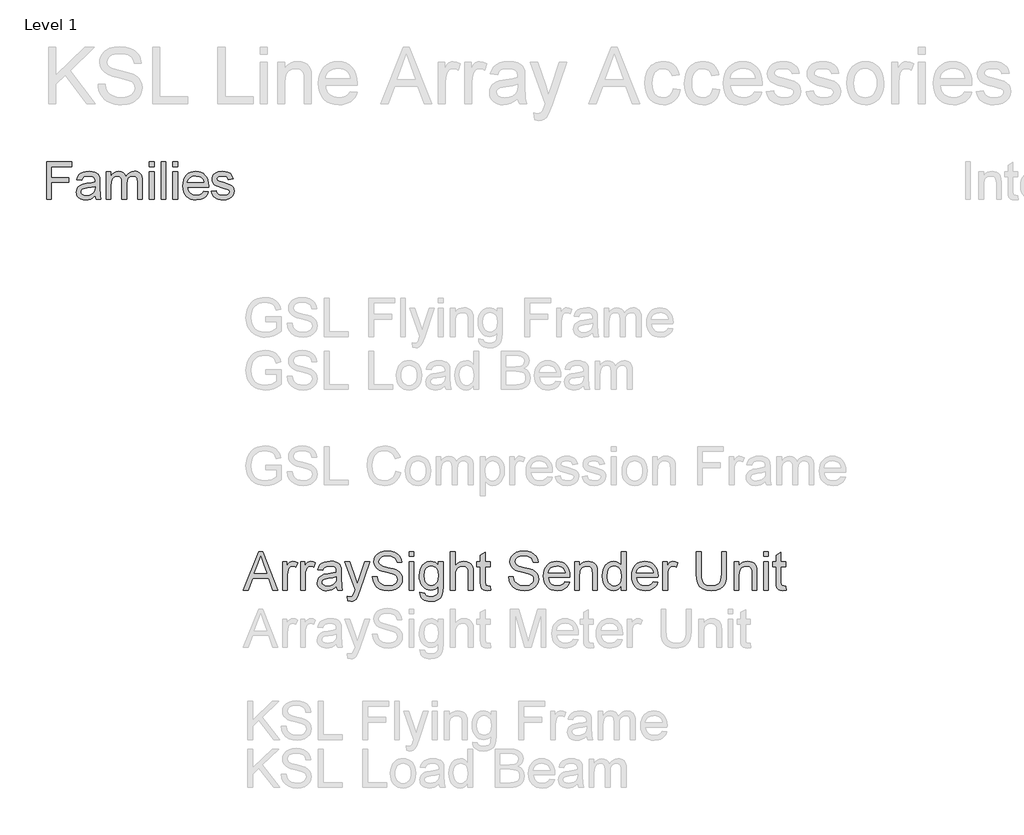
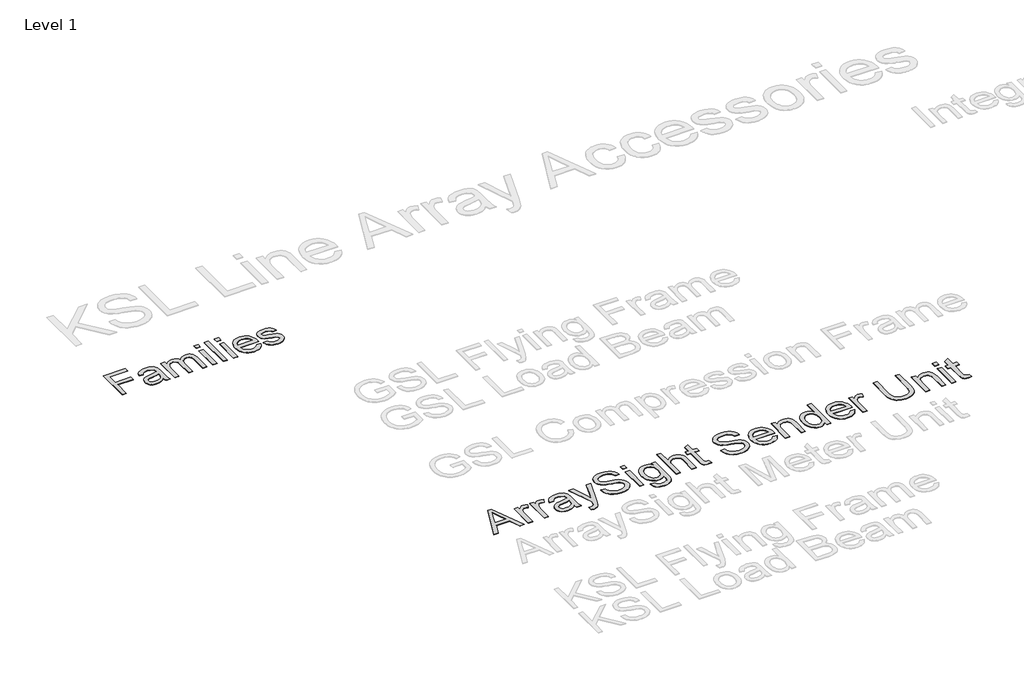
# One storey, part 12 of 52: 2 proxies.
"""IFC4 building model written with IfcOpenShell, lengths in millimetres."""

from ifc_helpers import new_model, si_unit, origin, origin_with_axes, place, context, project, spatial, polyline, outline, extrude, element, save

model = new_model("IFC4")

# Units and contexts
model_context = context("Model", 3, world=origin())
ifc_project = project(units=[si_unit("LENGTHUNIT", "METRE", prefix="MILLI")], contexts=[model_context])

# Site, building, storey
site = spatial("IfcSite", under=ifc_project)
building = spatial("IfcBuilding", under=site)
storey = spatial("IfcBuildingStorey", under=building, Name="Level 1", Elevation=0.0)

# Proxies
placement = place(None, origin())
element("IfcBuildingElementProxy", 1, Name="400mm Arial", ObjectType="400mm Arial", at=placement, inside=storey, context=model_context, shape_type="SweptSolid", body=[
    extrude(outline(polyline([(-21056.720891, -49567.5695164), (-21056.720891, -49175.8119407), (-20793.5087698, -49175.8119407), (-20793.5087698, -49224.7816376), (-21007.7511941, -49224.7816376), (-21007.7511941, -49341.0846679), (-20824.1148304, -49341.0846679), (-20824.1148304, -49390.0543649), (-21007.7511941, -49390.0543649), (-21007.7511941, -49567.5695164), (-21056.720891, -49567.5695164)])), origin_with_axes(), (0.0, 0.0, 1.0), 5.0),
    extrude(outline(polyline([(-20548.660285, -49530.8422437), (-20572.0571836, -49550.90356), (-20596.1475009, -49564.0306907), (-20621.4811893, -49571.2757191), (-20648.6082016, -49573.6907285), (-20670.4120309, -49572.2381362), (-20689.5318522, -49567.8803592), (-20705.9676654, -49560.6173976), (-20719.7194706, -49550.4492513), (-20730.5780466, -49538.0215169), (-20738.3341723, -49523.979791), (-20742.9878477, -49508.3240737), (-20744.5390729, -49491.0543649), (-20742.1957963, -49470.7539388), (-20735.1659668, -49452.3185695), (-20724.3223352, -49436.5373195), (-20710.5376524, -49424.1992513), (-20676.2493001, -49408.1310695), (-20633.879035, -49400.7664861), (-20583.8094327, -49393.019327), (-20548.9472168, -49383.9331528), (-20548.660285, -49373.0297437), (-20552.0317338, -49351.1751035), (-20562.1460804, -49336.8763346), (-20584.7658721, -49326.2598573), (-20616.2805501, -49322.7210316), (-20645.4519516, -49325.0762636), (-20665.8241107, -49332.1419596), (-20679.7163929, -49345.2093128), (-20689.4481638, -49365.5695164), (-20738.4178607, -49359.4483043), (-20729.9175056, -49332.6680013), (-20717.2327282, -49311.6263346), (-20699.1799346, -49295.5342418), (-20674.5755312, -49283.6026604), (-20644.4835568, -49276.214166), (-20609.9680501, -49273.7513346), (-20576.8632916, -49275.9272342), (-20550.6209857, -49282.4549331), (-20530.8346458, -49292.2703924), (-20517.097785, -49304.3095732), (-20507.9876997, -49319.1941613), (-20502.0816865, -49337.5458422), (-20499.690588, -49380.394327), (-20499.690588, -49441.3195164), (-20497.2038456, -49526.3948005), (-20487.4481638, -49567.5695164), (-20536.4178607, -49567.5695164), (-20544.2606638, -49550.5448952), (-20548.660285, -49530.8422437)]), holes=[polyline([(-20548.660285, -49432.9028498), (-20581.5618001, -49441.0564956), (-20627.6621789, -49447.9189482), (-20669.7933342, -49455.8573952), (-20680.7565208, -49461.2851888), (-20688.8743001, -49468.769327), (-20693.8956069, -49477.7359464), (-20695.5693759, -49487.6111831), (-20691.9229507, -49502.1729729), (-20680.9836751, -49514.1045543), (-20662.990659, -49522.0669123), (-20638.1830122, -49524.7210316), (-20611.8809289, -49521.7919359), (-20588.6394516, -49513.004649), (-20569.7975956, -49500.0568507), (-20556.6943759, -49484.646221), (-20550.8840066, -49468.769327), (-20548.9472168, -49446.771221), (-20548.660285, -49432.9028498)])]), origin_with_axes(), (0.0, 0.0, 1.0), 5.0),
    extrude(outline(polyline([(-20432.3572547, -49567.5695164), (-20432.3572547, -49279.8725467), (-20383.3875577, -49279.8725467), (-20383.3875577, -49327.2162967), (-20368.658391, -49305.469256), (-20349.720891, -49288.4326793), (-20327.2206543, -49277.4216708), (-20301.8032774, -49273.7513346), (-20274.5686657, -49277.4934037), (-20252.7379365, -49288.7196111), (-20236.4306448, -49306.6887162), (-20225.7663456, -49330.6594785), (-20207.9167954, -49305.7621656), (-20187.5565918, -49287.9783706), (-20164.6857348, -49277.3080936), (-20139.3042244, -49273.7513346), (-20119.7002057, -49275.2308268), (-20102.4932632, -49279.6693034), (-20087.683397, -49287.0667643), (-20075.2706069, -49297.4232096), (-20065.4581365, -49310.8581942), (-20058.4492291, -49327.4912731), (-20054.2438846, -49347.3224461), (-20052.8421032, -49370.3517134), (-20052.8421032, -49567.5695164), (-20101.8118001, -49567.5695164), (-20101.8118001, -49391.3933801), (-20106.3548872, -49350.505596), (-20112.7391202, -49339.2315666), (-20122.8056448, -49330.3725467), (-20135.7534431, -49324.6339104), (-20150.7814971, -49322.7210316), (-20177.3107348, -49327.6227835), (-20198.9382206, -49342.3280392), (-20207.3279874, -49353.6080463), (-20213.320678, -49367.84106), (-20218.1148304, -49405.1661073), (-20218.1148304, -49567.5695164), (-20267.0845274, -49567.5695164), (-20267.0845274, -49385.9416755), (-20269.9179791, -49358.2527551), (-20278.4183342, -49338.5022816), (-20293.3746552, -49326.6663441), (-20315.5760047, -49322.7210316), (-20334.4417717, -49325.3512399), (-20351.8250577, -49333.2418649), (-20366.1716486, -49346.2016187), (-20375.9273304, -49364.0392134), (-20381.5225009, -49388.7870827), (-20383.3875577, -49422.4776604), (-20383.3875577, -49567.5695164), (-20432.3572547, -49567.5695164)])), origin_with_axes(), (0.0, 0.0, 1.0), 5.0),
    extrude(outline(polyline([(-19979.3875577, -49224.7816376), (-19979.3875577, -49175.8119407), (-19930.4178607, -49175.8119407), (-19930.4178607, -49224.7816376), (-19979.3875577, -49224.7816376)])), origin_with_axes(), (0.0, 0.0, 1.0), 5.0),
    extrude(outline(polyline([(-19979.3875577, -49567.5695164), (-19979.3875577, -49279.8725467), (-19930.4178607, -49279.8725467), (-19930.4178607, -49567.5695164), (-19979.3875577, -49567.5695164)])), origin_with_axes(), (0.0, 0.0, 1.0), 5.0),
    extrude(outline(polyline([(-19856.9633153, -49567.5695164), (-19856.9633153, -49175.8119407), (-19807.9936183, -49175.8119407), (-19807.9936183, -49567.5695164), (-19856.9633153, -49567.5695164)])), origin_with_axes(), (0.0, 0.0, 1.0), 5.0),
    extrude(outline(polyline([(-19734.5390729, -49224.7816376), (-19734.5390729, -49175.8119407), (-19685.5693759, -49175.8119407), (-19685.5693759, -49224.7816376), (-19734.5390729, -49224.7816376)])), origin_with_axes(), (0.0, 0.0, 1.0), 5.0),
    extrude(outline(polyline([(-19734.5390729, -49567.5695164), (-19734.5390729, -49279.8725467), (-19685.5693759, -49279.8725467), (-19685.5693759, -49567.5695164), (-19734.5390729, -49567.5695164)])), origin_with_axes(), (0.0, 0.0, 1.0), 5.0),
    extrude(outline(polyline([(-19410.6886941, -49481.8725467), (-19362.6754365, -49487.9937589), (-19370.0370309, -49507.2241684), (-19379.975034, -49524.1710789), (-19392.4894457, -49538.8344904), (-19407.580266, -49551.2144028), (-19425.0920736, -49561.0477953), (-19444.8694469, -49568.0716471), (-19491.220891, -49573.6907285), (-19521.605775, -49571.2667525), (-19548.6789876, -49563.9948242), (-19572.4405288, -49551.8749437), (-19592.8903986, -49534.9071111), (-19609.3351784, -49513.5635683), (-19621.0814497, -49488.3165571), (-19628.1292125, -49459.1660777), (-19630.4784668, -49426.1121301), (-19628.1053015, -49391.937355), (-19620.9858058, -49361.8154918), (-19609.1199796, -49335.7465406), (-19592.5078229, -49313.7305013), (-19572.1117528, -49296.2396159), (-19548.8941865, -49283.7461263), (-19522.855124, -49276.2500325), (-19493.9945653, -49273.7513346), (-19466.0635461, -49276.2440548), (-19440.8045795, -49283.7222153), (-19418.2176654, -49296.1858161), (-19398.3028039, -49313.6348573), (-19382.0463231, -49335.6030747), (-19370.4345511, -49361.6242039), (-19363.4674879, -49391.6982451), (-19361.1451335, -49425.8251982), (-19361.4320653, -49439.0240619), (-19581.5087698, -49439.0240619), (-19578.6723292, -49458.5653142), (-19573.0323257, -49475.6796017), (-19564.5887592, -49490.3669241), (-19553.3416297, -49502.6272816), (-19524.9234242, -49519.1975941), (-19490.2644516, -49524.7210316), (-19464.2014782, -49522.1625562), (-19442.2511941, -49514.4871301), (-19424.4135994, -49501.2165335), (-19410.6886941, -49481.8725467)]), holes=[polyline([(-19581.5087698, -49390.0543649), (-19410.1148304, -49390.0543649), (-19416.7381732, -49364.1826793), (-19429.721838, -49345.675577), (-19443.076123, -49335.6329634), (-19458.2715539, -49328.4596679), (-19494.1858532, -49322.7210316), (-19527.1949677, -49327.2999852), (-19554.4893569, -49341.036846), (-19573.4627234, -49362.4491329), (-19581.5087698, -49390.0543649)])]), origin_with_axes(), (0.0, 0.0, 1.0), 5.0),
    extrude(outline(polyline([(-19330.5390729, -49481.8725467), (-19281.5693759, -49475.7513346), (-19273.8461278, -49496.6973573), (-19258.9017622, -49512.0960316), (-19236.6406354, -49521.5647816), (-19206.9671032, -49524.7210316), (-19177.6522357, -49521.8278024), (-19157.0409668, -49513.1481149), (-19144.8463645, -49500.5709369), (-19140.7814971, -49485.9852361), (-19144.8702755, -49473.503702), (-19157.1366107, -49463.9871301), (-19207.5409668, -49450.0231149), (-19281.2824441, -49426.0643081), (-19299.9449677, -49414.0251272), (-19313.4666297, -49398.0884558), (-19321.680053, -49379.2705107), (-19324.4178607, -49358.5875089), (-19322.2180501, -49339.6141424), (-19315.6186183, -49322.099346), (-19305.2173399, -49306.7365382), (-19291.6119895, -49294.2191376), (-19260.4798872, -49279.7290808), (-19218.3487319, -49273.7513346), (-19186.4753891, -49276.1543886), (-19158.7625577, -49283.3635505), (-19136.4775198, -49294.6734464), (-19120.8875577, -49309.378702), (-19110.5580122, -49328.5672674), (-19104.0542244, -49353.3270922), (-19153.0239213, -49359.4483043), (-19159.2049109, -49344.0376746), (-19171.4353797, -49332.4288914), (-19189.8348825, -49325.1479965), (-19214.5229744, -49322.7210316), (-19242.6422925, -49325.0403971), (-19261.3885047, -49331.9984937), (-19271.933249, -49342.0411073), (-19275.4481638, -49353.614024), (-19269.6138835, -49367.864971), (-19251.345891, -49378.6727361), (-19209.1669138, -49389.0979255), (-19137.2904933, -49412.1481149), (-19118.3051713, -49423.1710789), (-19103.9107585, -49438.2589104), (-19094.8365397, -49457.4594312), (-19091.8118001, -49480.8204634), (-19095.3625814, -49504.9705581), (-19106.0149251, -49527.6859937), (-19123.3623446, -49547.1854018), (-19146.9983532, -49561.6874142), (-19175.5480691, -49570.6899), (-19207.6366107, -49573.6907285), (-19233.9924938, -49572.244114), (-19257.0127944, -49567.9042702), (-19276.6975127, -49560.6711973), (-19293.0466486, -49550.5448952), (-19306.4009336, -49537.5731859), (-19317.1010994, -49521.8038914), (-19325.1471458, -49503.2370117), (-19330.5390729, -49481.8725467)])), origin_with_axes(), (0.0, 0.0, 1.0), 5.0),
])
element("IfcBuildingElementProxy", 2, Name="400mm Arial", ObjectType="400mm Arial", at=placement, inside=storey, context=model_context, shape_type="SweptSolid", body=[
    extrude(outline(polyline([(-18997.8660955, -53656.6859046), (-18837.4695456, -53254.860664), (-18794.6971323, -53254.860664), (-18634.3005824, -53656.6859046), (-18687.3736916, -53656.6859046), (-18733.3834665, -53531.1155169), (-18898.8813134, -53531.1155169), (-18944.7929864, -53656.6859046), (-18997.8660955, -53656.6859046)]), holes=[polyline([(-18880.4381627, -53480.8873618), (-18751.7285153, -53480.8873618), (-18787.9281036, -53382.0987834), (-18816.083339, -53305.088819), (-18841.0993147, -53373.4658192), (-18880.4381627, -53480.8873618)])]), origin_with_axes(), (0.0, 0.0, 1.0), 5.0),
    extrude(outline(polyline([(-18586.9173815, -53656.6859046), (-18586.9173815, -53361.5954935), (-18542.9677458, -53361.5954935), (-18542.9677458, -53405.2508236), (-18526.731887, -53379.9405423), (-18511.7713526, -53365.0290588), (-18496.7617672, -53357.7449953), (-18480.3787557, -53355.3169741), (-18455.36278, -53359.1919978), (-18429.9543969, -53370.8170688), (-18446.7298158, -53415.845825), (-18464.3881516, -53408.1203031), (-18482.0464874, -53405.5451292), (-18497.04381, -53408.0222013), (-18510.4469774, -53415.4534176), (-18521.2749708, -53427.2746924), (-18528.5467716, -53442.9219399), (-18534.6536127, -53470.9790734), (-18536.6892264, -53501.5868554), (-18536.6892264, -53656.6859046), (-18586.9173815, -53656.6859046)])), origin_with_axes(), (0.0, 0.0, 1.0), 5.0),
    extrude(outline(polyline([(-18398.5617999, -53656.6859046), (-18398.5617999, -53361.5954935), (-18354.6121642, -53361.5954935), (-18354.6121642, -53405.2508236), (-18338.3763055, -53379.9405423), (-18323.415771, -53365.0290588), (-18308.4061856, -53357.7449953), (-18292.0231741, -53355.3169741), (-18267.0071985, -53359.1919978), (-18241.5988153, -53370.8170688), (-18258.3742343, -53415.845825), (-18276.0325701, -53408.1203031), (-18293.6909058, -53405.5451292), (-18308.6882285, -53408.0222013), (-18322.0913959, -53415.4534176), (-18332.9193893, -53427.2746924), (-18340.19119, -53442.9219399), (-18346.2980311, -53470.9790734), (-18348.3336449, -53501.5868554), (-18348.3336449, -53656.6859046), (-18398.5617999, -53656.6859046)])), origin_with_axes(), (0.0, 0.0, 1.0), 5.0),
    extrude(outline(polyline([(-18021.8506369, -53619.0147883), (-18045.8488057, -53639.5916545), (-18070.558213, -53653.0561355), (-18096.5429446, -53660.4873518), (-18124.3670862, -53662.9644239), (-18146.7312458, -53661.4745019), (-18166.3424218, -53657.0047356), (-18183.2006143, -53649.5551252), (-18197.3058231, -53639.1256707), (-18208.4434505, -53626.3785595), (-18216.3988987, -53611.9759794), (-18221.1721675, -53595.9179303), (-18222.7632572, -53578.2044123), (-18220.3597615, -53557.3822913), (-18213.1492744, -53538.4731568), (-18202.0269754, -53522.286349), (-18187.888044, -53509.6312084), (-18171.2720406, -53500.0662765), (-18152.7185253, -53493.150095), (-18109.2593989, -53485.5962513), (-18057.9030724, -53477.6500002), (-18022.1449425, -53468.330323), (-18021.8506369, -53457.1467104), (-18025.3087276, -53434.7304341), (-18035.6829999, -53420.0642053), (-18058.8840911, -53409.1748982), (-18091.2086557, -53405.5451292), (-18121.1297246, -53407.9608876), (-18142.025422, -53415.2081629), (-18156.2747179, -53428.6113303), (-18166.2565827, -53449.4947649), (-18216.4847378, -53443.2162455), (-18207.7659345, -53415.7477232), (-18194.7551746, -53394.1653128), (-18176.2384475, -53377.6596739), (-18151.0017426, -53365.4214662), (-18120.1364432, -53357.8430971), (-18084.7339326, -53355.3169741), (-18050.7784244, -53357.5487915), (-18023.8617251, -53364.2442439), (-18003.5669017, -53374.3119478), (-17989.4770213, -53386.6605201), (-17980.1328186, -53401.9276229), (-17974.0750284, -53420.7509183), (-17971.6224818, -53464.700554), (-17971.6224818, -53527.1914423), (-17969.0718333, -53614.4530515), (-17959.065443, -53656.6859046), (-18009.2935981, -53656.6859046), (-18017.3379511, -53639.2237725), (-18021.8506369, -53619.0147883)]), holes=[polyline([(-18021.8506369, -53518.5584781), (-18055.5976786, -53526.9216621), (-18102.8827777, -53533.960471), (-18146.0966494, -53542.1029258), (-18157.3415757, -53547.6702067), (-18165.6679715, -53555.3466776), (-18170.8183194, -53564.5437275), (-18172.5351021, -53574.6727451), (-18168.7949685, -53589.6087541), (-18157.5745676, -53601.8469618), (-18139.1191542, -53610.0139421), (-18113.6739829, -53612.7362689), (-18086.6959699, -53609.7318992), (-18062.8572166, -53600.7187904), (-18043.5311491, -53587.4382503), (-18030.0911936, -53571.6315873), (-18024.1315052, -53555.3466776), (-18022.1449425, -53532.7832486), (-18021.8506369, -53518.5584781)])]), origin_with_axes(), (0.0, 0.0, 1.0), 5.0),
    extrude(outline(polyline([(-17902.5587686, -53769.6992535), (-17908.837288, -53721.3350338), (-17883.330803, -53725.7496178), (-17869.9153729, -53724.3639289), (-17859.4920497, -53720.2068624), (-17844.8748717, -53704.7558186), (-17831.1406106, -53667.7714153), (-17827.216536, -53655.606784), (-17933.9513655, -53361.5954935), (-17880.9763582, -53361.5954935), (-17824.3715819, -53525.4256087), (-17804.6531069, -53590.9576548), (-17784.934632, -53533.0775542), (-17726.7602258, -53361.5954935), (-17674.177626, -53361.5954935), (-17776.890279, -53663.7492389), (-17803.5739864, -53729.2812849), (-17817.2346712, -53750.2015077), (-17832.7102404, -53764.6960583), (-17850.6874072, -53773.1573442), (-17871.8528847, -53775.9777729), (-17902.5587686, -53769.6992535)])), origin_with_axes(), (0.0, 0.0, 1.0), 5.0),
    extrude(outline(polyline([(-17645.1394738, -53518.5584781), (-17594.9113187, -53518.5584781), (-17589.1478341, -53546.4316706), (-17578.7245109, -53568.8356841), (-17562.4641268, -53586.6166472), (-17539.1894592, -53600.6206885), (-17510.7399182, -53609.7073738), (-17478.9549139, -53612.7362689), (-17450.9713568, -53610.4431378), (-17426.4704159, -53603.5637445), (-17406.6170509, -53592.6744374), (-17392.5762214, -53578.3515651), (-17384.2253001, -53561.9072399), (-17381.4416597, -53544.6535743), (-17383.5263243, -53527.8413671), (-17389.7803182, -53513.3100283), (-17402.4845098, -53500.9124051), (-17423.9197674, -53490.5013446), (-17497.054708, -53471.3224299), (-17545.0633084, -53458.6305011), (-17575.781455, -53446.5517089), (-17600.7851679, -53429.6536626), (-17618.5048174, -53409.1748982), (-17629.0630306, -53385.5568741), (-17632.582435, -53359.2410487), (-17628.2291648, -53329.8227518), (-17615.1693539, -53302.3910177), (-17593.7463591, -53279.1408756), (-17564.3035367, -53262.2673548), (-17528.9623397, -53252.0034471), (-17489.8442209, -53248.5821446), (-17447.4642151, -53252.1628627), (-17410.38171, -53262.9050169), (-17379.9210808, -53280.5878782), (-17357.4067026, -53304.9907172), (-17343.1574067, -53334.592955), (-17337.492024, -53367.8740129), (-17387.720179, -53367.8740129), (-17396.9417544, -53337.903893), (-17405.3049384, -53326.04583), (-17416.16972, -53316.2724317), (-17446.2134163, -53303.1758327), (-17487.8821836, -53298.8102996), (-17530.5319696, -53303.1267817), (-17546.8352733, -53308.5223843), (-17559.7908509, -53316.076228), (-17576.7134227, -53335.1325153), (-17582.35428, -53357.7695207), (-17578.356629, -53377.0710628), (-17566.3636759, -53392.595683), (-17538.0122368, -53406.4770969), (-17484.3505164, -53420.6528165), (-17428.9720134, -53434.1172975), (-17395.4702264, -53445.8649959), (-17366.8367445, -53464.0874173), (-17346.8607521, -53486.57727), (-17335.1253165, -53513.0892991), (-17331.2135046, -53543.37825), (-17335.7139277, -53574.3416513), (-17349.2151969, -53603.4656426), (-17371.1654893, -53628.5306692), (-17401.0129818, -53647.3171764), (-17436.9060018, -53659.0526121), (-17476.9928765, -53662.9644239), (-17526.2032248, -53658.7460437), (-17566.7070324, -53646.0909031), (-17598.9702834, -53624.9499511), (-17623.4589616, -53595.2741368), (-17639.1797855, -53559.1235994), (-17645.1394738, -53518.5584781)])), origin_with_axes(), (0.0, 0.0, 1.0), 5.0),
    extrude(outline(polyline([(-17262.1497914, -53656.6859046), (-17262.1497914, -53361.5954935), (-17211.9216363, -53361.5954935), (-17211.9216363, -53656.6859046), (-17262.1497914, -53656.6859046)])), origin_with_axes(), (0.0, 0.0, 1.0), 5.0),
    extrude(outline(polyline([(-17262.1497914, -53305.088819), (-17262.1497914, -53254.860664), (-17211.9216363, -53254.860664), (-17211.9216363, -53305.088819), (-17262.1497914, -53305.088819)])), origin_with_axes(), (0.0, 0.0, 1.0), 5.0),
    extrude(outline(polyline([(-17149.1364424, -53681.7999821), (-17098.9082874, -53688.0785015), (-17093.365532, -53703.7747999), (-17082.6233777, -53714.5660051), (-17061.5069512, -53722.9537146), (-17033.8667506, -53725.7496178), (-17004.3871401, -53722.5858326), (-16982.4613732, -53713.0944772), (-16967.255584, -53697.888688), (-16957.9359068, -53677.5816019), (-16954.5023415, -53619.0147883), (-16971.2164468, -53635.4959016), (-16989.868064, -53647.2681255), (-17010.457193, -53654.3314598), (-17032.9838338, -53656.6859046), (-17060.5228669, -53653.9451837), (-17084.769356, -53645.7230211), (-17105.7233013, -53632.0194168), (-17123.3847028, -53612.8343707), (-17137.3979411, -53589.8172206), (-17147.4073971, -53564.6173039), (-17153.4130706, -53537.2346207), (-17155.4149618, -53507.669171), (-17151.821981, -53467.1163124), (-17141.0430386, -53429.8253409), (-17123.4582792, -53398.2242775), (-17099.4478476, -53374.7411435), (-17069.833347, -53360.1730164), (-17035.4363805, -53355.3169741), (-17011.9471151, -53358.0638263), (-16990.6283535, -53366.304383), (-16971.4800956, -53380.0386442), (-16954.5023415, -53399.2666098), (-16954.5023415, -53361.5954935), (-16904.2741865, -53361.5954935), (-16904.2741865, -53616.3660379), (-16907.7077517, -53675.1903689), (-16918.0084476, -53713.928343), (-16935.7526225, -53739.618769), (-16961.5166249, -53759.3004557), (-16994.7363691, -53771.8084436), (-17034.8477693, -53775.9777729), (-17059.4560091, -53774.5093106), (-17081.5810454, -53770.1039237), (-17101.2228783, -53762.7616122), (-17118.3815076, -53752.4823761), (-17132.2414618, -53739.2539527), (-17141.987269, -53723.0640792), (-17147.6189292, -53703.9127557), (-17149.1364424, -53681.7999821)]), holes=[polyline([(-17105.1868068, -53504.2356058), (-17099.8279924, -53550.3066943), (-17093.1294744, -53567.9435703), (-17083.7515492, -53581.9813341), (-17072.350273, -53592.6897658), (-17059.5817021, -53600.3386456), (-17045.4458364, -53604.9279735), (-17029.942676, -53606.4577495), (-17014.5927998, -53604.9371706), (-17000.5243791, -53600.3754338), (-16987.7374141, -53592.7725393), (-16976.2319047, -53582.1284869), (-16966.7252208, -53568.2286788), (-16959.9347323, -53550.8585173), (-16954.5023415, -53505.7071337), (-16960.0941479, -53462.1621682), (-16967.0839058, -53444.9606193), (-16976.8695668, -53430.8063595), (-16988.6233966, -53419.7545712), (-17001.5176605, -53411.8604368), (-17015.5523586, -53407.1239561), (-17030.7274909, -53405.5451292), (-17045.6481715, -53407.0994306), (-17059.4100238, -53411.7623349), (-17083.4572436, -53430.4139521), (-17092.9639275, -53444.353614), (-17099.754416, -53461.3037769), (-17105.1868068, -53504.2356058)])]), origin_with_axes(), (0.0, 0.0, 1.0), 5.0),
    extrude(outline(polyline([(-16828.9319538, -53656.6859046), (-16828.9319538, -53254.860664), (-16778.7037988, -53254.860664), (-16778.7037988, -53402.6020732), (-16760.2545167, -53381.9148424), (-16739.536629, -53367.1382489), (-16716.5501357, -53358.2722928), (-16691.2950367, -53355.3169741), (-16660.9570348, -53358.5420729), (-16634.8864641, -53368.2173694), (-16614.3586488, -53383.5825741), (-16600.6489131, -53403.8773975), (-16592.9233912, -53431.7628527), (-16590.3482172, -53469.8999529), (-16590.3482172, -53656.6859046), (-16640.5763723, -53656.6859046), (-16640.5763723, -53475.0993517), (-16644.5740233, -53443.6577039), (-16656.5669764, -53422.1243444), (-16675.8930438, -53409.689933), (-16701.8900382, -53405.5451292), (-16723.1168293, -53408.3410323), (-16743.0437707, -53416.7287418), (-16759.5494096, -53429.8989173), (-16770.512293, -53447.0422182), (-16776.6559223, -53469.8263765), (-16778.7037988, -53499.9191237), (-16778.7037988, -53656.6859046), (-16828.9319538, -53656.6859046)])), origin_with_axes(), (0.0, 0.0, 1.0), 5.0),
    extrude(outline(polyline([(-16414.5496745, -53614.796408), (-16408.2711551, -53658.1574325), (-16445.8441695, -53662.9644239), (-16469.9527029, -53660.8797593), (-16487.9298698, -53654.6257654), (-16500.6340613, -53644.9872571), (-16508.923669, -53632.7490494), (-16513.4854057, -53611.7307247), (-16515.0059846, -53575.7518656), (-16515.0059846, -53411.8236486), (-16552.6771009, -53411.8236486), (-16552.6771009, -53361.5954935), (-16515.0059846, -53361.5954935), (-16515.0059846, -53289.8830299), (-16464.7778296, -53260.3543684), (-16464.7778296, -53361.5954935), (-16414.5496745, -53361.5954935), (-16414.5496745, -53411.8236486), (-16464.7778296, -53411.8236486), (-16464.7778296, -53574.2803376), (-16462.1290792, -53600.1792301), (-16453.545166, -53609.3517545), (-16436.4263905, -53612.7362689), (-16414.5496745, -53614.796408)])), origin_with_axes(), (0.0, 0.0, 1.0), 5.0),
    extrude(outline(polyline([(-16219.9155736, -53518.5584781), (-16169.6874185, -53518.5584781), (-16163.9239339, -53546.4316706), (-16153.5006107, -53568.8356841), (-16137.2402265, -53586.6166472), (-16113.9655589, -53600.6206885), (-16085.516018, -53609.7073738), (-16053.7310136, -53612.7362689), (-16025.7474565, -53610.4431378), (-16001.2465156, -53603.5637445), (-15981.3931506, -53592.6744374), (-15967.3523211, -53578.3515651), (-15959.0013998, -53561.9072399), (-15956.2177594, -53544.6535743), (-15958.3024241, -53527.8413671), (-15964.556418, -53513.3100283), (-15977.2606095, -53500.9124051), (-15998.6958671, -53490.5013446), (-16071.8308078, -53471.3224299), (-16119.8394081, -53458.6305011), (-16150.5575547, -53446.5517089), (-16175.5612677, -53429.6536626), (-16193.2809171, -53409.1748982), (-16203.8391304, -53385.5568741), (-16207.3585348, -53359.2410487), (-16203.0052645, -53329.8227518), (-16189.9454537, -53302.3910177), (-16168.5224588, -53279.1408756), (-16139.0796365, -53262.2673548), (-16103.7384395, -53252.0034471), (-16064.6203207, -53248.5821446), (-16022.2403148, -53252.1628627), (-15985.1578097, -53262.9050169), (-15954.6971805, -53280.5878782), (-15932.1828024, -53304.9907172), (-15917.9335065, -53334.592955), (-15912.2681237, -53367.8740129), (-15962.4962788, -53367.8740129), (-15971.7178541, -53337.903893), (-15980.0810382, -53326.04583), (-15990.9458198, -53316.2724317), (-16020.989516, -53303.1758327), (-16062.6582834, -53298.8102996), (-16105.3080693, -53303.1267817), (-16121.6113731, -53308.5223843), (-16134.5669507, -53316.076228), (-16151.4895225, -53335.1325153), (-16157.1303797, -53357.7695207), (-16153.1327287, -53377.0710628), (-16141.1397757, -53392.595683), (-16112.7883366, -53406.4770969), (-16059.1266162, -53420.6528165), (-16003.7481132, -53434.1172975), (-15970.2463262, -53445.8649959), (-15941.6128442, -53464.0874173), (-15921.6368519, -53486.57727), (-15909.9014162, -53513.0892991), (-15905.9896043, -53543.37825), (-15910.4900274, -53574.3416513), (-15923.9912966, -53603.4656426), (-15945.941589, -53628.5306692), (-15975.7890816, -53647.3171764), (-16011.6821016, -53659.0526121), (-16051.7689763, -53662.9644239), (-16100.9793245, -53658.7460437), (-16141.4831322, -53646.0909031), (-16173.7463832, -53624.9499511), (-16198.2350613, -53595.2741368), (-16213.9558852, -53559.1235994), (-16219.9155736, -53518.5584781)])), origin_with_axes(), (0.0, 0.0, 1.0), 5.0),
    extrude(outline(polyline([(-15630.3233626, -53568.7866332), (-15581.0762262, -53575.0651526), (-15588.6270042, -53594.7897589), (-15598.8204011, -53612.1721831), (-15611.6564171, -53627.2124254), (-15627.135052, -53639.9104856), (-15645.0968904, -53649.9965836), (-15665.3825168, -53657.2009394), (-15712.9251333, -53662.9644239), (-15744.0908696, -53660.4781548), (-15771.8598289, -53653.0193473), (-15796.2320111, -53640.5880016), (-15817.2074162, -53623.1841175), (-15834.0748057, -53601.2920731), (-15846.122941, -53575.3962464), (-15853.3518222, -53545.4966372), (-15855.7614493, -53511.5932457), (-15853.3272967, -53476.5402229), (-15846.0248391, -53445.6442667), (-15833.8540765, -53418.905377), (-15816.8150087, -53396.3235538), (-15795.8947859, -53378.3831752), (-15772.0805581, -53365.568619), (-15745.3723252, -53357.8798853), (-15715.7700874, -53355.3169741), (-15687.121277, -53357.873754), (-15661.2131875, -53365.5440936), (-15638.0458188, -53378.3279929), (-15617.6191711, -53396.225452), (-15600.9449196, -53418.7582242), (-15589.03474, -53445.4480629), (-15581.8886323, -53476.2949682), (-15579.5065964, -53511.2989401), (-15579.800902, -53524.8369975), (-15805.5332942, -53524.8369975), (-15802.6239607, -53544.8804349), (-15796.8390164, -53562.4345374), (-15788.1784611, -53577.4993051), (-15776.6422948, -53590.074738), (-15762.8681798, -53599.9891577), (-15747.4937781, -53607.0708861), (-15711.9441146, -53612.7362689), (-15685.2113563, -53610.112044), (-15662.6969782, -53602.2393693), (-15644.4009803, -53588.6277354), (-15630.3233626, -53568.7866332)]), holes=[polyline([(-15805.5332942, -53474.6088424), (-15629.7347514, -53474.6088424), (-15636.5283056, -53448.0722878), (-15649.8456338, -53429.0895769), (-15663.5431068, -53418.788881), (-15679.1290407, -53411.4312411), (-15696.6034354, -53407.0166572), (-15715.9662911, -53405.5451292), (-15749.8236974, -53410.241756), (-15777.8195172, -53424.3316364), (-15797.2804748, -53446.2941915), (-15805.5332942, -53474.6088424)])]), origin_with_axes(), (0.0, 0.0, 1.0), 5.0),
    extrude(outline(polyline([(-15529.2784413, -53656.6859046), (-15529.2784413, -53361.5954935), (-15479.0502862, -53361.5954935), (-15479.0502862, -53402.798277), (-15461.6004169, -53382.025207), (-15440.6434059, -53367.1872998), (-15416.1792532, -53358.2845555), (-15388.2079589, -53355.3169741), (-15363.4495006, -53357.7082071), (-15340.775707, -53364.881906), (-15321.8665724, -53375.9428913), (-15308.4020914, -53389.9959835), (-15299.2663552, -53407.0043944), (-15293.343455, -53426.9313358), (-15290.6947047, -53475.4917592), (-15290.6947047, -53656.6859046), (-15340.9228598, -53656.6859046), (-15340.9228598, -53482.2607879), (-15342.3698623, -53456.2883191), (-15346.7108698, -53437.8206429), (-15354.7184346, -53424.5891538), (-15367.1651087, -53414.3252461), (-15383.1189246, -53407.7401584), (-15401.6479144, -53405.5451292), (-15431.0662113, -53410.4747479), (-15456.1435006, -53425.2636041), (-15466.1652193, -53437.3362649), (-15473.3235898, -53453.8357724), (-15477.6186121, -53474.7621266), (-15479.0502862, -53500.1153274), (-15479.0502862, -53656.6859046), (-15529.2784413, -53656.6859046)])), origin_with_axes(), (0.0, 0.0, 1.0), 5.0),
    extrude(outline(polyline([(-15039.5539293, -53656.6859046), (-15039.5539293, -53609.3027036), (-15054.5819088, -53632.7797062), (-15072.7859362, -53649.5489939), (-15094.1660115, -53659.6105664), (-15118.7221347, -53662.9644239), (-15151.1938521, -53658.1083816), (-15180.9187173, -53643.5402546), (-15206.0818458, -53620.2778498), (-15224.868353, -53589.338974), (-15236.5670005, -53551.974426), (-15240.4665496, -53509.4350046), (-15236.8735688, -53467.4228808), (-15226.0946263, -53429.4819843), (-15208.141985, -53397.7705564), (-15183.0279074, -53374.4468379), (-15152.6531174, -53360.09944), (-15118.9183384, -53355.3169741), (-15094.3438211, -53358.7382767), (-15072.6142579, -53369.0021843), (-15054.1956327, -53384.735271), (-15039.5539293, -53404.5641105), (-15039.5539293, -53254.860664), (-14989.3257742, -53254.860664), (-14989.3257742, -53656.6859046), (-15039.5539293, -53656.6859046)]), holes=[polyline([(-15190.2383945, -53509.2388009), (-15188.8220488, -53533.5956547), (-15184.5730118, -53554.6722273), (-15177.4912834, -53572.4685188), (-15167.5768636, -53586.9845292), (-15142.879719, -53606.298334), (-15129.0044364, -53611.1267851), (-15114.111347, -53612.7362689), (-15099.1477468, -53611.2003615), (-15085.3552377, -53606.5926395), (-15061.2834925, -53588.1617516), (-15051.7768086, -53574.2527465), (-15044.9863201, -53557.1002485), (-15039.5539293, -53513.0647736), (-15045.084422, -53464.9212832), (-15051.9975378, -53446.386162), (-15061.6758999, -53431.5421235), (-15073.3776131, -53420.1684385), (-15086.3607818, -53412.0443778), (-15100.6254062, -53407.1699413), (-15116.1714862, -53405.5451292), (-15131.3588812, -53407.105562), (-15145.2341638, -53411.7868604), (-15157.7973339, -53419.5890243), (-15169.0483916, -53430.5120539), (-15178.3190179, -53444.7950724), (-15184.9408938, -53462.677203), (-15190.2383945, -53509.2388009)])]), origin_with_axes(), (0.0, 0.0, 1.0), 5.0),
    extrude(outline(polyline([(-14707.3810131, -53568.7866332), (-14658.1338767, -53575.0651526), (-14665.6846547, -53594.7897589), (-14675.8780516, -53612.1721831), (-14688.7140676, -53627.2124254), (-14704.1927025, -53639.9104856), (-14722.1545409, -53649.9965836), (-14742.4401673, -53657.2009394), (-14789.9827838, -53662.9644239), (-14821.1485201, -53660.4781548), (-14848.9174794, -53653.0193473), (-14873.2896616, -53640.5880016), (-14894.2650667, -53623.1841175), (-14911.1324562, -53601.2920731), (-14923.1805915, -53575.3962464), (-14930.4094727, -53545.4966372), (-14932.8190998, -53511.5932457), (-14930.3849472, -53476.5402229), (-14923.0824896, -53445.6442667), (-14910.911727, -53418.905377), (-14893.8726592, -53396.3235538), (-14872.9524364, -53378.3831752), (-14849.1382086, -53365.568619), (-14822.4299757, -53357.8798853), (-14792.8277379, -53355.3169741), (-14764.1789275, -53357.873754), (-14738.270838, -53365.5440936), (-14715.1034693, -53378.3279929), (-14694.6768216, -53396.225452), (-14678.0025701, -53418.7582242), (-14666.0923905, -53445.4480629), (-14658.9462828, -53476.2949682), (-14656.5642469, -53511.2989401), (-14656.8585525, -53524.8369975), (-14882.5909447, -53524.8369975), (-14879.6816112, -53544.8804349), (-14873.8966669, -53562.4345374), (-14865.2361116, -53577.4993051), (-14853.6999453, -53590.074738), (-14839.9258303, -53599.9891577), (-14824.5514286, -53607.0708861), (-14789.0017651, -53612.7362689), (-14762.2690068, -53610.112044), (-14739.7546287, -53602.2393693), (-14721.4586308, -53588.6277354), (-14707.3810131, -53568.7866332)]), holes=[polyline([(-14882.5909447, -53474.6088424), (-14706.7924019, -53474.6088424), (-14713.5859561, -53448.0722878), (-14726.9032843, -53429.0895769), (-14740.6007573, -53418.788881), (-14756.1866912, -53411.4312411), (-14773.6610859, -53407.0166572), (-14793.0239416, -53405.5451292), (-14826.8813479, -53410.241756), (-14854.8771677, -53424.3316364), (-14874.3381253, -53446.2941915), (-14882.5909447, -53474.6088424)])]), origin_with_axes(), (0.0, 0.0, 1.0), 5.0),
    extrude(outline(polyline([(-14606.3360918, -53656.6859046), (-14606.3360918, -53361.5954935), (-14562.3864561, -53361.5954935), (-14562.3864561, -53405.2508236), (-14546.1505974, -53379.9405423), (-14531.1900629, -53365.0290588), (-14516.1804775, -53357.7449953), (-14499.797466, -53355.3169741), (-14474.7814903, -53359.1919978), (-14449.3731072, -53370.8170688), (-14466.1485262, -53415.845825), (-14483.8068619, -53408.1203031), (-14501.4651977, -53405.5451292), (-14516.4625204, -53408.0222013), (-14529.8656877, -53415.4534176), (-14540.6936811, -53427.2746924), (-14547.9654819, -53442.9219399), (-14554.072323, -53470.9790734), (-14556.1079367, -53501.5868554), (-14556.1079367, -53656.6859046), (-14606.3360918, -53656.6859046)])), origin_with_axes(), (0.0, 0.0, 1.0), 5.0),
    extrude(outline(polyline([(-13991.0411921, -53254.860664), (-13940.813037, -53254.860664), (-13940.813037, -53486.6753719), (-13944.2220769, -53540.9624916), (-13954.4491963, -53582.766149), (-13962.6345707, -53599.7193776), (-13973.5545346, -53615.0171372), (-14003.5982309, -53640.6462496), (-14022.7403574, -53650.4104509), (-14044.6538615, -53657.3848803), (-14096.795003, -53662.9644239), (-14147.7957103, -53658.1083816), (-14188.5692981, -53643.5402546), (-14205.1239878, -53632.7398524), (-14219.1280291, -53619.762815), (-14230.5814219, -53604.6091425), (-14239.4841662, -53587.2788348), (-14250.9252962, -53543.7093438), (-14254.7390063, -53486.6753719), (-14254.7390063, -53254.860664), (-14204.5108512, -53254.860664), (-14204.5108512, -53484.9095383), (-14202.0337791, -53530.0486591), (-14194.6025628, -53561.4780442), (-14181.1380818, -53583.2443956), (-14160.5612155, -53599.3944152), (-14133.7303553, -53609.4008054), (-14101.5038925, -53612.7362689), (-14073.8207724, -53611.0869313), (-14050.4173461, -53606.1389184), (-14031.2936138, -53597.8922304), (-14016.4495752, -53586.3468671), (-14005.3334076, -53570.1110084), (-13997.3932879, -53547.792834), (-13992.6292161, -53519.392344), (-13991.0411921, -53484.9095383), (-13991.0411921, -53254.860664)])), origin_with_axes(), (0.0, 0.0, 1.0), 5.0),
    extrude(outline(polyline([(-13859.192285, -53656.6859046), (-13859.192285, -53361.5954935), (-13808.96413, -53361.5954935), (-13808.96413, -53402.798277), (-13791.5142607, -53382.025207), (-13770.5572497, -53367.1872998), (-13746.093097, -53358.2845555), (-13718.1218026, -53355.3169741), (-13693.3633444, -53357.7082071), (-13670.6895507, -53364.881906), (-13651.7804162, -53375.9428913), (-13638.3159351, -53389.9959835), (-13629.1801989, -53407.0043944), (-13623.2572988, -53426.9313358), (-13620.6085484, -53475.4917592), (-13620.6085484, -53656.6859046), (-13670.8367035, -53656.6859046), (-13670.8367035, -53482.2607879), (-13672.283706, -53456.2883191), (-13676.6247136, -53437.8206429), (-13684.6322783, -53424.5891538), (-13697.0789525, -53414.3252461), (-13713.0327684, -53407.7401584), (-13731.5617582, -53405.5451292), (-13760.9800551, -53410.4747479), (-13786.0573444, -53425.2636041), (-13796.0790631, -53437.3362649), (-13803.2374336, -53453.8357724), (-13807.5324559, -53474.7621266), (-13808.96413, -53500.1153274), (-13808.96413, -53656.6859046), (-13859.192285, -53656.6859046)])), origin_with_axes(), (0.0, 0.0, 1.0), 5.0),
    extrude(outline(polyline([(-13551.5448352, -53305.088819), (-13551.5448352, -53254.860664), (-13501.3166801, -53254.860664), (-13501.3166801, -53305.088819), (-13551.5448352, -53305.088819)])), origin_with_axes(), (0.0, 0.0, 1.0), 5.0),
    extrude(outline(polyline([(-13551.5448352, -53656.6859046), (-13551.5448352, -53361.5954935), (-13501.3166801, -53361.5954935), (-13501.3166801, -53656.6859046), (-13551.5448352, -53656.6859046)])), origin_with_axes(), (0.0, 0.0, 1.0), 5.0),
    extrude(outline(polyline([(-13319.239618, -53614.796408), (-13312.9610986, -53658.1574325), (-13350.534113, -53662.9644239), (-13374.6426465, -53660.8797593), (-13392.6198133, -53654.6257654), (-13405.3240049, -53644.9872571), (-13413.6136125, -53632.7490494), (-13418.1753492, -53611.7307247), (-13419.6959281, -53575.7518656), (-13419.6959281, -53411.8236486), (-13457.3670444, -53411.8236486), (-13457.3670444, -53361.5954935), (-13419.6959281, -53361.5954935), (-13419.6959281, -53289.8830299), (-13369.4677731, -53260.3543684), (-13369.4677731, -53361.5954935), (-13319.239618, -53361.5954935), (-13319.239618, -53411.8236486), (-13369.4677731, -53411.8236486), (-13369.4677731, -53574.2803376), (-13366.8190227, -53600.1792301), (-13358.2351095, -53609.3517545), (-13341.116334, -53612.7362689), (-13319.239618, -53614.796408)])), origin_with_axes(), (0.0, 0.0, 1.0), 5.0),
])

save(model, "model.ifc")
